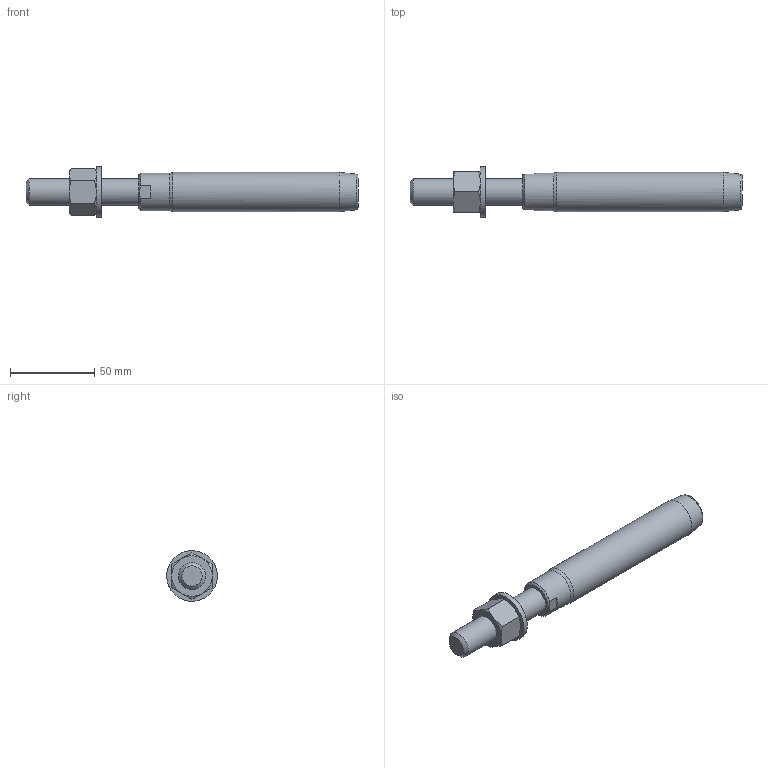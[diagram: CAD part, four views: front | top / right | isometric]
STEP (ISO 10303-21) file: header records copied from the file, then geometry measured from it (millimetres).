
FILE_DESCRIPTION(/* description */ (''),/* implementation_level */ '2;1');
FILE_NAME(/* name */ 'FLT 12_42CrMo4',/* time_stamp */ '2023-05-23T15:57:50+02:00',/* author */ (''),/* organization */ (''),/* preprocessor_version */ 'ST-DEVELOPER v16.5',/* originating_system */ 'Rhino 7.22',/* authorisation */ '');
FILE_SCHEMA (('CONFIG_CONTROL_DESIGN'));
Length unit declared in the file: millimetre
Products named in the file (1): Document
Bounding box: 197 x 30 x 29.99 mm (x, y, z)
Volume: 74459.8 mm3; surface area: 17437.1 mm2
Topology: 3 solids, 3 shells, 42 faces, 102 edges, 67 vertices
Faces by surface type: bspline 19, plane 17, cylinder 6
Full cylindrical faces by diameter (mm): 13.835 x1, 16 x1, 17 x1, 22.2 x1, 23.3 x1, 30 x1
Entity records: 1559 total; most frequent: CARTESIAN_POINT 861, ORIENTED_EDGE 204, EDGE_CURVE 102, VERTEX_POINT 67, EDGE_LOOP 47, ADVANCED_FACE 42, FACE_OUTER_BOUND 42, DIRECTION 27
